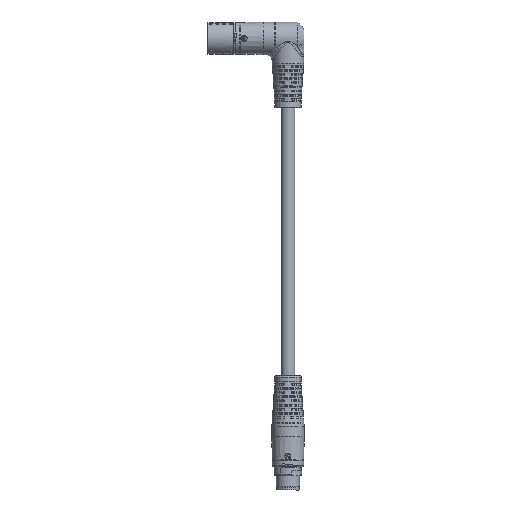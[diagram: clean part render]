
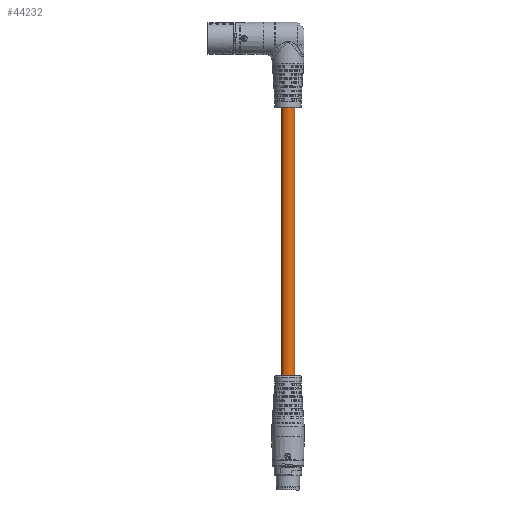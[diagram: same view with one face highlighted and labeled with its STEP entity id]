
A CAD part, front view. The second image highlights one B-rep face of the part: STEP entity #44232.
In plain terms, the highlighted cylindrical face has radius 4.55 mm (diameter 9.1 mm), a full revolution.
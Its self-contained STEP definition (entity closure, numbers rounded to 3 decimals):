
#1295 = EDGE_CURVE ( 'NONE', #14408, #14408, #41279, .T. ) ;
#5063 = AXIS2_PLACEMENT_3D ( 'NONE', #47712, #33005, #18339 ) ;
#5473 = EDGE_CURVE ( 'NONE', #57197, #57197, #12446, .T. ) ;
#10210 = FACE_OUTER_BOUND ( 'NONE', #21089, .T. ) ;
#12446 = CIRCLE ( 'NONE', #19448, 4.55 ) ;
#14408 = VERTEX_POINT ( 'NONE', #27827 ) ;
#18339 = DIRECTION ( 'NONE',  ( -0.665, -0.746, 0. ) ) ;
#19448 = AXIS2_PLACEMENT_3D ( 'NONE', #28762, #44371, #34056 ) ;
#21089 = EDGE_LOOP ( 'NONE', ( #47453 ) ) ;
#21682 = EDGE_LOOP ( 'NONE', ( #59123 ) ) ;
#27827 = CARTESIAN_POINT ( 'NONE',  ( 3.028, 3.397, -199.898 ) ) ;
#27859 = CARTESIAN_POINT ( 'NONE',  ( 0., 0., -199.898 ) ) ;
#28762 = CARTESIAN_POINT ( 'NONE',  ( 0., 0., -21.793 ) ) ;
#32861 = DIRECTION ( 'NONE',  ( 0., 0., 1. ) ) ;
#33005 = DIRECTION ( 'NONE',  ( 0., 0., 1. ) ) ;
#34056 = DIRECTION ( 'NONE',  ( -0.665, -0.746, 0. ) ) ;
#37398 = FACE_OUTER_BOUND ( 'NONE', #21682, .T. ) ;
#38299 = AXIS2_PLACEMENT_3D ( 'NONE', #27859, #32861, #51924 ) ;
#38749 = CARTESIAN_POINT ( 'NONE',  ( -3.028, -3.397, -21.793 ) ) ;
#41279 = CIRCLE ( 'NONE', #38299, 4.55 ) ;
#44232 = ADVANCED_FACE ( 'NONE', ( #10210, #37398 ), #48311, .T. ) ;
#44371 = DIRECTION ( 'NONE',  ( 0., 0., -1. ) ) ;
#47453 = ORIENTED_EDGE ( 'NONE', *, *, #5473, .T. ) ;
#47712 = CARTESIAN_POINT ( 'NONE',  ( 0., 0., -212.767 ) ) ;
#48311 = CYLINDRICAL_SURFACE ( 'NONE', #5063, 4.55 ) ;
#51924 = DIRECTION ( 'NONE',  ( 0.665, 0.746, 0. ) ) ;
#57197 = VERTEX_POINT ( 'NONE', #38749 ) ;
#59123 = ORIENTED_EDGE ( 'NONE', *, *, #1295, .T. ) ;
